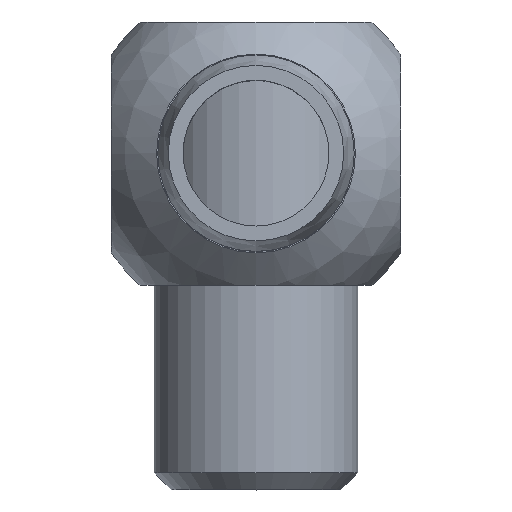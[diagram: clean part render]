
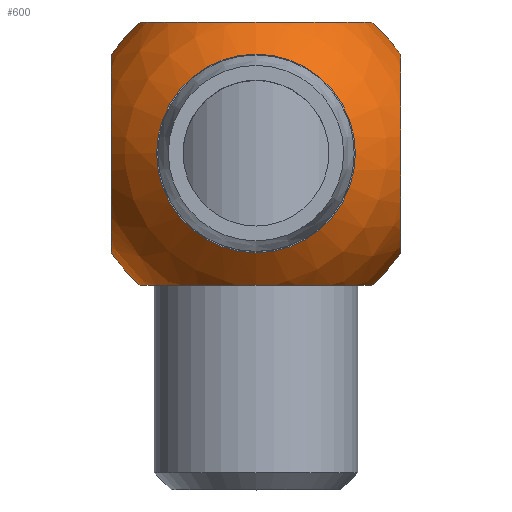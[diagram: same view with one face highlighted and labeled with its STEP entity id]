
A CAD part, top view. The second image highlights one B-rep face of the part: STEP entity #600.
In plain terms, the highlighted spherical face has radius 19.05 mm.
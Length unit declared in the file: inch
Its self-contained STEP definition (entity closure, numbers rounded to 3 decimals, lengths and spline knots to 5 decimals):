
#15=SPHERICAL_SURFACE('',#680,0.75);
#34=FACE_BOUND('',#134,.T.);
#35=FACE_BOUND('',#135,.T.);
#91=FACE_OUTER_BOUND('',#133,.T.);
#133=EDGE_LOOP('',(#511,#512,#513,#514,#515,#516,#517,#518,#519));
#134=EDGE_LOOP('',(#520));
#135=EDGE_LOOP('',(#521));
#230=CIRCLE('',#658,0.49608);
#231=CIRCLE('',#660,0.49608);
#232=CIRCLE('',#662,0.42494);
#233=CIRCLE('',#663,0.42494);
#234=CIRCLE('',#665,0.42494);
#235=CIRCLE('',#667,0.618);
#236=CIRCLE('',#668,0.618);
#243=CIRCLE('',#678,0.42494);
#244=CIRCLE('',#679,0.42494);
#245=CIRCLE('',#681,0.75);
#292=VERTEX_POINT('',#1042);
#293=VERTEX_POINT('',#1045);
#294=VERTEX_POINT('',#1048);
#295=VERTEX_POINT('',#1049);
#296=VERTEX_POINT('',#1051);
#297=VERTEX_POINT('',#1055);
#298=VERTEX_POINT('',#1056);
#305=VERTEX_POINT('',#1078);
#306=VERTEX_POINT('',#1079);
#364=EDGE_CURVE('',#292,#292,#230,.T.);
#365=EDGE_CURVE('',#293,#293,#231,.T.);
#366=EDGE_CURVE('',#294,#295,#232,.T.);
#368=EDGE_CURVE('',#295,#296,#233,.T.);
#369=EDGE_CURVE('',#297,#298,#234,.T.);
#371=EDGE_CURVE('',#298,#294,#235,.T.);
#372=EDGE_CURVE('',#296,#297,#236,.T.);
#380=EDGE_CURVE('',#305,#306,#243,.T.);
#381=EDGE_CURVE('',#306,#305,#244,.T.);
#382=EDGE_CURVE('',#306,#295,#245,.T.);
#511=ORIENTED_EDGE('',*,*,#380,.T.);
#512=ORIENTED_EDGE('',*,*,#382,.T.);
#513=ORIENTED_EDGE('',*,*,#368,.T.);
#514=ORIENTED_EDGE('',*,*,#372,.T.);
#515=ORIENTED_EDGE('',*,*,#369,.T.);
#516=ORIENTED_EDGE('',*,*,#371,.T.);
#517=ORIENTED_EDGE('',*,*,#366,.T.);
#518=ORIENTED_EDGE('',*,*,#382,.F.);
#519=ORIENTED_EDGE('',*,*,#381,.T.);
#520=ORIENTED_EDGE('',*,*,#364,.T.);
#521=ORIENTED_EDGE('',*,*,#365,.T.);
#600=ADVANCED_FACE('',(#91,#34,#35),#15,.T.);
#658=AXIS2_PLACEMENT_3D('',#1043,#800,#801);
#660=AXIS2_PLACEMENT_3D('',#1046,#804,#805);
#662=AXIS2_PLACEMENT_3D('',#1050,#808,#809);
#663=AXIS2_PLACEMENT_3D('',#1053,#811,#812);
#665=AXIS2_PLACEMENT_3D('',#1057,#815,#816);
#667=AXIS2_PLACEMENT_3D('',#1060,#820,#821);
#668=AXIS2_PLACEMENT_3D('',#1061,#822,#823);
#678=AXIS2_PLACEMENT_3D('',#1080,#843,#844);
#679=AXIS2_PLACEMENT_3D('',#1081,#845,#846);
#680=AXIS2_PLACEMENT_3D('',#1082,#847,#848);
#681=AXIS2_PLACEMENT_3D('',#1083,#849,#850);
#800=DIRECTION('center_axis',(0.,1.,0.));
#801=DIRECTION('ref_axis',(0.,0.,-1.));
#804=DIRECTION('center_axis',(0.,-1.,0.));
#805=DIRECTION('ref_axis',(0.,0.,1.));
#808=DIRECTION('center_axis',(1.,0.,0.));
#809=DIRECTION('ref_axis',(0.,0.,1.));
#811=DIRECTION('center_axis',(1.,0.,0.));
#812=DIRECTION('ref_axis',(0.,0.,1.));
#815=DIRECTION('center_axis',(-1.,0.,0.));
#816=DIRECTION('ref_axis',(0.,0.,-1.));
#820=DIRECTION('center_axis',(0.,1.,0.));
#821=DIRECTION('ref_axis',(1.,0.,0.));
#822=DIRECTION('center_axis',(0.,-1.,0.));
#823=DIRECTION('ref_axis',(1.,0.,0.));
#843=DIRECTION('center_axis',(0.,0.,-1.));
#844=DIRECTION('ref_axis',(1.,0.,0.));
#845=DIRECTION('center_axis',(0.,0.,-1.));
#846=DIRECTION('ref_axis',(1.,0.,0.));
#847=DIRECTION('center_axis',(0.,0.,1.));
#848=DIRECTION('ref_axis',(1.,0.,0.));
#849=DIRECTION('center_axis',(0.,-1.,0.));
#850=DIRECTION('ref_axis',(-1.,0.,0.));
#1042=CARTESIAN_POINT('',(0.,-0.5625,0.49608));
#1043=CARTESIAN_POINT('Origin',(0.,-0.5625,0.));
#1045=CARTESIAN_POINT('',(0.,0.5625,-0.49608));
#1046=CARTESIAN_POINT('Origin',(0.,0.5625,0.));
#1048=CARTESIAN_POINT('',(-0.618,0.42494,0.));
#1049=CARTESIAN_POINT('',(-0.618,0.,0.42494));
#1050=CARTESIAN_POINT('Origin',(-0.618,0.,0.));
#1051=CARTESIAN_POINT('',(-0.618,-0.42494,0.));
#1053=CARTESIAN_POINT('Origin',(-0.618,0.,0.));
#1055=CARTESIAN_POINT('',(0.618,-0.42494,0.));
#1056=CARTESIAN_POINT('',(0.618,0.42494,0.));
#1057=CARTESIAN_POINT('Origin',(0.618,0.,0.));
#1060=CARTESIAN_POINT('Origin',(0.,0.42494,0.));
#1061=CARTESIAN_POINT('Origin',(0.,-0.42494,0.));
#1078=CARTESIAN_POINT('',(0.,0.42494,0.618));
#1079=CARTESIAN_POINT('',(-0.42494,0.,0.618));
#1080=CARTESIAN_POINT('Origin',(0.,0.,0.618));
#1081=CARTESIAN_POINT('Origin',(0.,0.,0.618));
#1082=CARTESIAN_POINT('Origin',(0.,0.,0.));
#1083=CARTESIAN_POINT('Origin',(0.,0.,0.));
